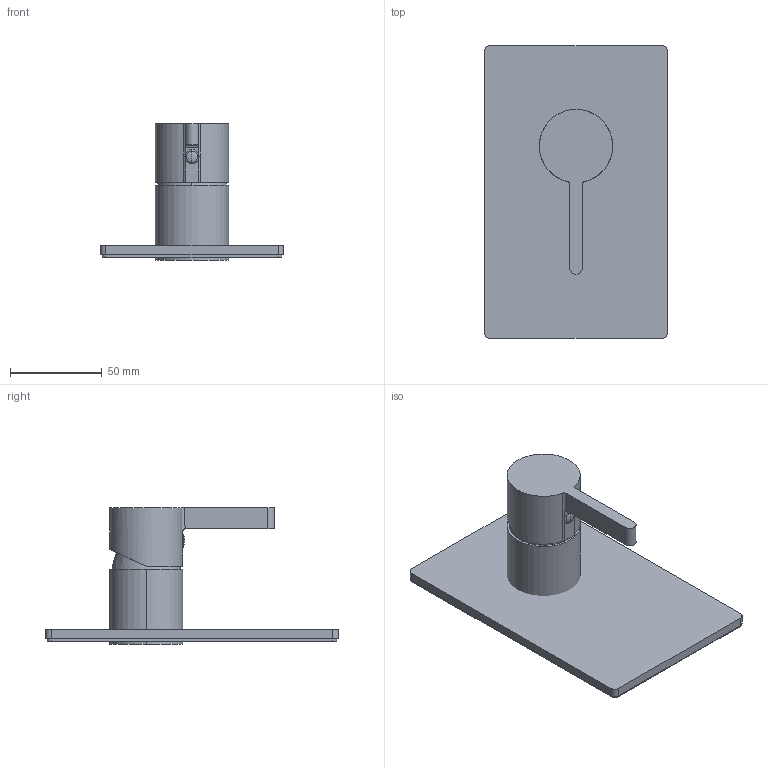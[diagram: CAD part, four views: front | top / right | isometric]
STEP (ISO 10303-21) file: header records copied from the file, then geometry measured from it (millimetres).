
FILE_DESCRIPTION(('FreeCAD Model'),'2;1');
FILE_NAME('Open CASCADE Shape Model','2024-07-23T11:51:18',('Author'),( ''),'Open CASCADE STEP processor 7.6','FreeCAD','Unknown');
FILE_SCHEMA(('AUTOMOTIVE_DESIGN { 1 0 10303 214 1 1 1 1 }'));
Length unit declared in the file: millimetre
Products named in the file (5): TopLevelAssembly; Połączona geometria bryłowa; Wyciąganie001; Obrót profilu; Połączona geometria bryłowa001
Assembly tree (4 placements, depth 2):
  TopLevelAssembly
    Połączona geometria bryłowa
    Wyciąganie001
    Obrót profilu
    Połączona geometria bryłowa001
Bounding box: 100 x 160 x 74.6 mm (x, y, z)
Volume: 199905.1 mm3; surface area: 51651.7 mm2
Topology: 4 solids, 4 shells, 45 faces, 103 edges, 65 vertices
Faces by surface type: plane 24, cylinder 15, bspline 6
Entity records: 1473 total; most frequent: CARTESIAN_POINT 340, DIRECTION 229, ORIENTED_EDGE 202, EDGE_CURVE 101, AXIS2_PLACEMENT_3D 88, VERTEX_POINT 65, LINE 53, VECTOR 53
